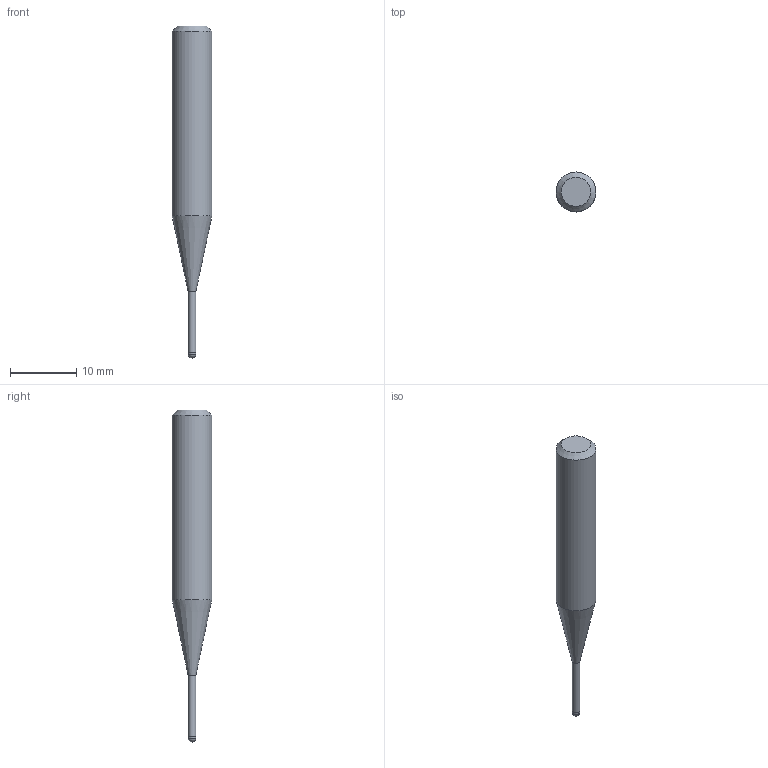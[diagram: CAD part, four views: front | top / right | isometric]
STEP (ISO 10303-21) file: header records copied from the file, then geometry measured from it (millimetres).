
FILE_DESCRIPTION((''),'2;1');
FILE_NAME('C:\Users\nsx150\AppData\Local\Temp\Mastercam 2021\3SYKECWX22\TEMP.step','2021-04-22T10:02:52',(''),(''),'STEP Write','Mastercam 2021 ... CNC Software, Inc.','');
FILE_SCHEMA(('AUTOMOTIVE_DESIGN'));
Length unit declared in the file: millimetre
Products named in the file (1): None
Bounding box: 6 x 6 x 50 mm (x, y, z)
Volume: 945.2 mm3; surface area: 727 mm2
Topology: 2 solids, 2 shells, 9 faces, 14 edges, 8 vertices
Faces by surface type: plane 3, cylinder 3, cone 2, sphere 1
Full cylindrical faces by diameter (mm): 1.15 x1, 1.2 x1, 6 x1
Entity records: 211 total; most frequent: DIRECTION 36, CARTESIAN_POINT 25, AXIS2_PLACEMENT_3D 18, ORIENTED_EDGE 14, EDGE_LOOP 14, STYLED_ITEM 12, ADVANCED_FACE 9, FACE_BOUND 8
